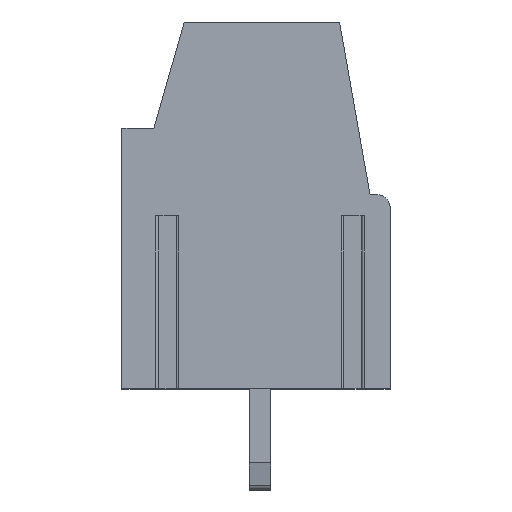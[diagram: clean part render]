
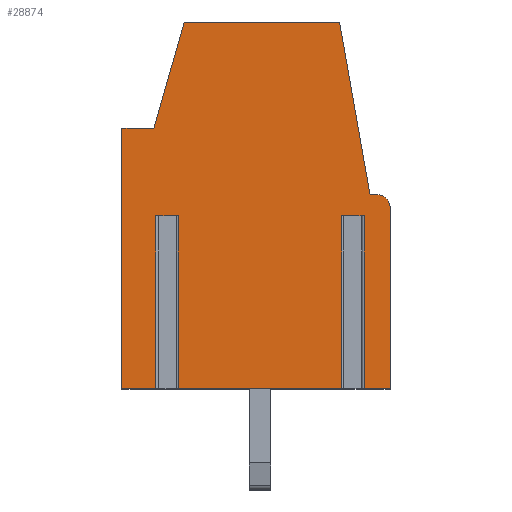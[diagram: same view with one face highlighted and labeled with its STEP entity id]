
A CAD part, top view. The second image highlights one B-rep face of the part: STEP entity #28874.
In plain terms, the highlighted planar face has unit normal (0, 0, 1).
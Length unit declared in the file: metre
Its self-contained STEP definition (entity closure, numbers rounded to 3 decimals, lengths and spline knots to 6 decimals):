
#10173=DIRECTION('',(1.,0.,0.));
#10174=VECTOR('',#10173,0.006163);
#10175=CARTESIAN_POINT('',(0.002118,0.,0.));
#10176=LINE('',#10175,#10174);
#10177=DIRECTION('',(1.,0.,0.));
#10178=VECTOR('',#10177,0.001282);
#10179=CARTESIAN_POINT('',(0.,0.,0.));
#10180=LINE('',#10179,#10178);
#10181=DIRECTION('',(0.,-1.,0.));
#10182=VECTOR('',#10181,0.0098);
#10183=CARTESIAN_POINT('',(0.,0.0098,0.));
#10184=LINE('',#10183,#10182);
#10185=DIRECTION('',(-1.,0.,0.));
#10186=VECTOR('',#10185,0.0012);
#10187=CARTESIAN_POINT('',(0.0012,0.0098,0.));
#10188=LINE('',#10187,#10186);
#10189=DIRECTION('',(-0.276,-0.961,0.));
#10190=VECTOR('',#10189,0.004161);
#10191=CARTESIAN_POINT('',(0.002347,0.0138,0.));
#10192=LINE('',#10191,#10190);
#10193=DIRECTION('',(-1.,0.,0.));
#10194=VECTOR('',#10193,0.00585);
#10195=CARTESIAN_POINT('',(0.008197,0.0138,0.));
#10196=LINE('',#10195,#10194);
#10197=DIRECTION('',(-0.174,0.985,0.));
#10198=VECTOR('',#10197,0.0066);
#10199=CARTESIAN_POINT('',(0.009343,0.0073,0.));
#10200=LINE('',#10199,#10198);
#10201=DIRECTION('',(-1.,0.,0.));
#10202=VECTOR('',#10201,0.000257);
#10203=CARTESIAN_POINT('',(0.0096,0.0073,0.));
#10204=LINE('',#10203,#10202);
#10205=CARTESIAN_POINT('',(0.0096,0.0068,0.));
#10206=DIRECTION('',(0.,0.,1.));
#10207=DIRECTION('',(1.,0.,0.));
#10208=AXIS2_PLACEMENT_3D('',#10205,#10206,#10207);
#10210=DIRECTION('',(0.,1.,0.));
#10211=VECTOR('',#10210,0.0068);
#10212=CARTESIAN_POINT('',(0.0101,0.,0.));
#10213=LINE('',#10212,#10211);
#10214=DIRECTION('',(1.,0.,0.));
#10215=VECTOR('',#10214,0.000982);
#10216=CARTESIAN_POINT('',(0.009118,0.,0.));
#10217=LINE('',#10216,#10215);
#10218=DIRECTION('',(0.,1.,0.));
#10219=VECTOR('',#10218,0.0065);
#10220=CARTESIAN_POINT('',(0.009118,0.,0.));
#10221=LINE('',#10220,#10219);
#10231=DIRECTION('',(-1.,0.,0.));
#10232=VECTOR('',#10231,0.000837);
#10233=CARTESIAN_POINT('',(0.009118,0.0065,0.));
#10234=LINE('',#10233,#10232);
#10278=DIRECTION('',(0.,-1.,0.));
#10279=VECTOR('',#10278,0.0065);
#10280=CARTESIAN_POINT('',(0.008282,0.0065,0.));
#10281=LINE('',#10280,#10279);
#10310=DIRECTION('',(0.,1.,0.));
#10311=VECTOR('',#10310,0.0065);
#10312=CARTESIAN_POINT('',(0.002118,0.,0.));
#10313=LINE('',#10312,#10311);
#10323=DIRECTION('',(-1.,0.,0.));
#10324=VECTOR('',#10323,0.000837);
#10325=CARTESIAN_POINT('',(0.002118,0.0065,0.));
#10326=LINE('',#10325,#10324);
#10374=DIRECTION('',(0.,-1.,0.));
#10375=VECTOR('',#10374,0.0065);
#10376=CARTESIAN_POINT('',(0.001282,0.0065,0.));
#10377=LINE('',#10376,#10375);
#18831=CARTESIAN_POINT('',(0.0101,0.,0.));
#18833=VERTEX_POINT('',#18831);
#18885=CARTESIAN_POINT('',(0.,0.,0.));
#18886=VERTEX_POINT('',#18885);
#18887=CARTESIAN_POINT('',(0.001282,0.,0.));
#18888=VERTEX_POINT('',#18887);
#18909=CARTESIAN_POINT('',(0.002118,0.,0.));
#18910=VERTEX_POINT('',#18909);
#18911=CARTESIAN_POINT('',(0.008282,0.,0.));
#18912=VERTEX_POINT('',#18911);
#18933=CARTESIAN_POINT('',(0.009118,0.,0.));
#18934=VERTEX_POINT('',#18933);
#19055=CARTESIAN_POINT('',(0.0101,0.0068,0.));
#19057=VERTEX_POINT('',#19055);
#19084=CARTESIAN_POINT('',(0.0096,0.0073,0.));
#19086=VERTEX_POINT('',#19084);
#19087=CARTESIAN_POINT('',(0.009343,0.0073,0.));
#19089=VERTEX_POINT('',#19087);
#19091=CARTESIAN_POINT('',(0.008197,0.0138,0.));
#19093=VERTEX_POINT('',#19091);
#19095=CARTESIAN_POINT('',(0.002347,0.0138,0.));
#19097=VERTEX_POINT('',#19095);
#19117=CARTESIAN_POINT('',(0.0012,0.0098,0.));
#19118=VERTEX_POINT('',#19117);
#19270=CARTESIAN_POINT('',(0.,0.0098,0.));
#19271=VERTEX_POINT('',#19270);
#19554=CARTESIAN_POINT('',(0.009118,0.0065,0.));
#19555=CARTESIAN_POINT('',(0.008282,0.0065,0.));
#19556=VERTEX_POINT('',#19554);
#19557=VERTEX_POINT('',#19555);
#19558=CARTESIAN_POINT('',(0.002118,0.0065,0.));
#19559=VERTEX_POINT('',#19558);
#19560=CARTESIAN_POINT('',(0.001282,0.0065,0.));
#19561=VERTEX_POINT('',#19560);
#28839=CARTESIAN_POINT('',(0.00505,0.0069,0.));
#28840=DIRECTION('',(0.,0.,1.));
#28841=DIRECTION('',(1.,0.,0.));
#28842=AXIS2_PLACEMENT_3D('',#28839,#28840,#28841);
#28843=PLANE('',#28842);
#28845=ORIENTED_EDGE('',*,*,#28844,.T.);
#28847=ORIENTED_EDGE('',*,*,#28846,.T.);
#28849=ORIENTED_EDGE('',*,*,#28848,.T.);
#28850=ORIENTED_EDGE('',*,*,#21478,.F.);
#28852=ORIENTED_EDGE('',*,*,#28851,.T.);
#28854=ORIENTED_EDGE('',*,*,#28853,.T.);
#28856=ORIENTED_EDGE('',*,*,#28855,.T.);
#28857=ORIENTED_EDGE('',*,*,#21454,.F.);
#28858=ORIENTED_EDGE('',*,*,#28809,.F.);
#28860=ORIENTED_EDGE('',*,*,#28859,.F.);
#28862=ORIENTED_EDGE('',*,*,#28861,.F.);
#28863=ORIENTED_EDGE('',*,*,#24340,.F.);
#28865=ORIENTED_EDGE('',*,*,#28864,.F.);
#28867=ORIENTED_EDGE('',*,*,#28866,.F.);
#28869=ORIENTED_EDGE('',*,*,#28868,.F.);
#28870=ORIENTED_EDGE('',*,*,#27417,.F.);
#28871=ORIENTED_EDGE('',*,*,#21398,.F.);
#28872=EDGE_LOOP('',(#28845,#28847,#28849,#28850,#28852,#28854,#28856,#28857,
#28858,#28860,#28862,#28863,#28865,#28867,#28869,#28870,#28871));
#28873=FACE_OUTER_BOUND('',#28872,.F.);
#28874=ADVANCED_FACE('',(#28873),#28843,.T.);
#10209=CIRCLE('',#10208,0.0005);
#21398=EDGE_CURVE('',#18934,#18833,#10217,.T.);
#21454=EDGE_CURVE('',#18886,#18888,#10180,.T.);
#21478=EDGE_CURVE('',#18910,#18912,#10176,.T.);
#24340=EDGE_CURVE('',#19093,#19097,#10196,.T.);
#27417=EDGE_CURVE('',#18833,#19057,#10213,.T.);
#28809=EDGE_CURVE('',#19271,#18886,#10184,.T.);
#28844=EDGE_CURVE('',#18934,#19556,#10221,.T.);
#28846=EDGE_CURVE('',#19556,#19557,#10234,.T.);
#28848=EDGE_CURVE('',#19557,#18912,#10281,.T.);
#28851=EDGE_CURVE('',#18910,#19559,#10313,.T.);
#28853=EDGE_CURVE('',#19559,#19561,#10326,.T.);
#28855=EDGE_CURVE('',#19561,#18888,#10377,.T.);
#28859=EDGE_CURVE('',#19118,#19271,#10188,.T.);
#28861=EDGE_CURVE('',#19097,#19118,#10192,.T.);
#28864=EDGE_CURVE('',#19089,#19093,#10200,.T.);
#28866=EDGE_CURVE('',#19086,#19089,#10204,.T.);
#28868=EDGE_CURVE('',#19057,#19086,#10209,.T.);
